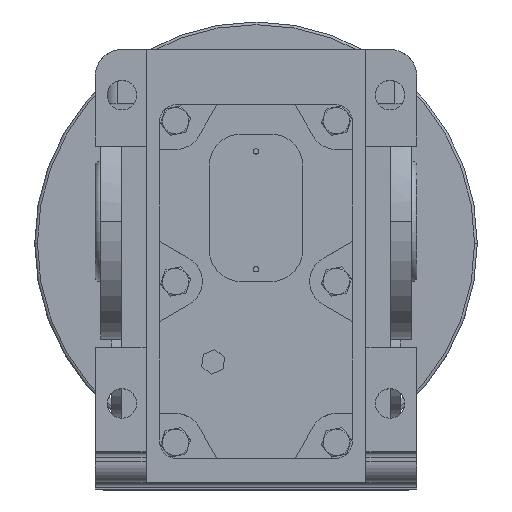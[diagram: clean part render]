
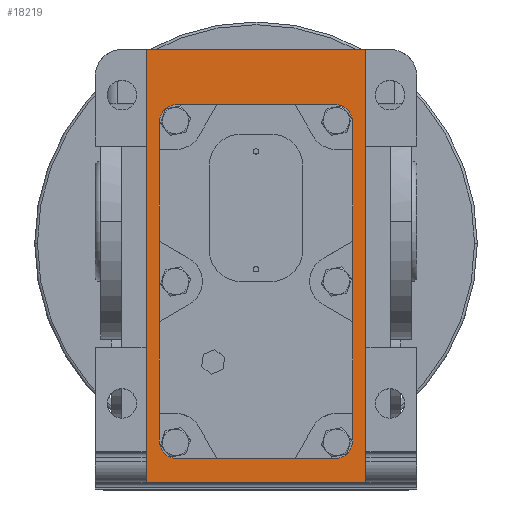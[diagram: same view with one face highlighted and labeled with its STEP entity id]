
A CAD part, top view. The second image highlights one B-rep face of the part: STEP entity #18219.
In plain terms, the highlighted planar face has unit normal (0, 0, 1).
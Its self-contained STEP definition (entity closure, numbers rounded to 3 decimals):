
#1895 = EDGE_CURVE ( 'NONE', #10723, #28179, #4187, .T. ) ;
#1904 = EDGE_CURVE ( 'NONE', #28420, #10725, #4194, .T. ) ;
#1945 = EDGE_CURVE ( 'NONE', #28426, #10721, #4230, .T. ) ;
#1957 = EDGE_CURVE ( 'NONE', #10721, #28420, #4239, .T. ) ;
#1961 = EDGE_CURVE ( 'NONE', #10725, #28487, #4245, .T. ) ;
#1965 = EDGE_CURVE ( 'NONE', #10727, #10723, #4248, .T. ) ;
#1967 = EDGE_CURVE ( 'NONE', #28179, #28426, #4250, .T. ) ;
#2360 = EDGE_CURVE ( 'NONE', #11447, #10890, #4558, .T. ) ;
#2425 = EDGE_CURVE ( 'NONE', #28065, #11447, #4605, .T. ) ;
#2442 = EDGE_CURVE ( 'NONE', #28487, #10727, #4615, .T. ) ;
#2448 = EDGE_CURVE ( 'NONE', #10890, #11078, #4623, .T. ) ;
#2451 = EDGE_CURVE ( 'NONE', #11078, #28065, #4625, .T. ) ;
#2717 = CARTESIAN_POINT ( 'NONE',  ( 16.431, 61.767, 89. ) ) ;
#2719 = DIRECTION ( 'NONE',  ( 0., 0., -1. ) ) ;
#2721 = DIRECTION ( 'NONE',  ( -1., 0., 0. ) ) ;
#2738 = CARTESIAN_POINT ( 'NONE',  ( -42.573, -57.233, 89. ) ) ;
#2740 = DIRECTION ( 'NONE',  ( 0., 0., -1. ) ) ;
#2742 = DIRECTION ( 'NONE',  ( -1., 0., 0. ) ) ;
#2812 = CARTESIAN_POINT ( 'NONE',  ( 16.427, -57.233, 89. ) ) ;
#2813 = DIRECTION ( 'NONE',  ( 0., 0., -1. ) ) ;
#2814 = DIRECTION ( 'NONE',  ( -1., 0., 0. ) ) ;
#2817 = CARTESIAN_POINT ( 'NONE',  ( -130.166, -63.733, 89. ) ) ;
#2820 = DIRECTION ( 'NONE',  ( 0., 1., 0. ) ) ;
#2823 = CARTESIAN_POINT ( 'NONE',  ( -49.073, 2.267, 89. ) ) ;
#2824 = DIRECTION ( 'NONE',  ( -1., 0., 0. ) ) ;
#2832 = CARTESIAN_POINT ( 'NONE',  ( -130.166, 68.267, 89. ) ) ;
#2833 = DIRECTION ( 'NONE',  ( 1., 0., 0. ) ) ;
#2834 = CARTESIAN_POINT ( 'NONE',  ( 22.927, 2.267, 89. ) ) ;
#2835 = DIRECTION ( 'NONE',  ( 0., -1., 0. ) ) ;
#4187 = CIRCLE ( 'NONE', #9866, 6.5 ) ;
#4194 = CIRCLE ( 'NONE', #9867, 6.5 ) ;
#4230 = CIRCLE ( 'NONE', #9873, 6.5 ) ;
#4239 = LINE ( 'NONE', #2817, #4244 ) ;
#4244 = VECTOR ( 'NONE', #2824, 1000. ) ;
#4245 = LINE ( 'NONE', #2823, #4247 ) ;
#4247 = VECTOR ( 'NONE', #2820, 1000. ) ;
#4248 = LINE ( 'NONE', #2832, #4251 ) ;
#4250 = LINE ( 'NONE', #2834, #4253 ) ;
#4251 = VECTOR ( 'NONE', #2833, 1000. ) ;
#4253 = VECTOR ( 'NONE', #2835, 1000. ) ;
#4558 = LINE ( 'NONE', #14966, #4561 ) ;
#4561 = VECTOR ( 'NONE', #14968, 1000. ) ;
#4605 = LINE ( 'NONE', #15036, #4608 ) ;
#4608 = VECTOR ( 'NONE', #15037, 1000. ) ;
#4615 = CIRCLE ( 'NONE', #9924, 6.5 ) ;
#4623 = LINE ( 'NONE', #15059, #4626 ) ;
#4625 = LINE ( 'NONE', #15061, #4628 ) ;
#4626 = VECTOR ( 'NONE', #15060, 1000. ) ;
#4628 = VECTOR ( 'NONE', #15062, 1000. ) ;
#6191 = ORIENTED_EDGE ( 'NONE', *, *, #2451, .T. ) ;
#6192 = ORIENTED_EDGE ( 'NONE', *, *, #2425, .T. ) ;
#6193 = ORIENTED_EDGE ( 'NONE', *, *, #2360, .T. ) ;
#6194 = ORIENTED_EDGE ( 'NONE', *, *, #2448, .T. ) ;
#6195 = ORIENTED_EDGE ( 'NONE', *, *, #1957, .T. ) ;
#6196 = ORIENTED_EDGE ( 'NONE', *, *, #1904, .T. ) ;
#6197 = ORIENTED_EDGE ( 'NONE', *, *, #1961, .T. ) ;
#6198 = ORIENTED_EDGE ( 'NONE', *, *, #2442, .T. ) ;
#6199 = ORIENTED_EDGE ( 'NONE', *, *, #1965, .T. ) ;
#6200 = ORIENTED_EDGE ( 'NONE', *, *, #1895, .T. ) ;
#6201 = ORIENTED_EDGE ( 'NONE', *, *, #1967, .T. ) ;
#6202 = ORIENTED_EDGE ( 'NONE', *, *, #1945, .T. ) ;
#7663 = AXIS2_PLACEMENT_3D ( 'NONE', #29422, #29428, #29429 ) ;
#7885 = EDGE_LOOP ( 'NONE', ( #6191, #6192, #6193, #6194 ) ) ;
#7892 = EDGE_LOOP ( 'NONE', ( #6195, #6196, #6197, #6198, #6199, #6200, #6201, #6202 ) ) ;
#9866 = AXIS2_PLACEMENT_3D ( 'NONE', #2717, #2719, #2721 ) ;
#9867 = AXIS2_PLACEMENT_3D ( 'NONE', #2738, #2740, #2742 ) ;
#9873 = AXIS2_PLACEMENT_3D ( 'NONE', #2812, #2813, #2814 ) ;
#9924 = AXIS2_PLACEMENT_3D ( 'NONE', #15054, #15055, #15056 ) ;
#10721 = VERTEX_POINT ( 'NONE', #24001 ) ;
#10723 = VERTEX_POINT ( 'NONE', #24004 ) ;
#10725 = VERTEX_POINT ( 'NONE', #24009 ) ;
#10727 = VERTEX_POINT ( 'NONE', #24010 ) ;
#10890 = VERTEX_POINT ( 'NONE', #24144 ) ;
#11078 = VERTEX_POINT ( 'NONE', #24301 ) ;
#11447 = VERTEX_POINT ( 'NONE', #20079 ) ;
#14607 = FACE_OUTER_BOUND ( 'NONE', #7885, .T. ) ;
#14621 = FACE_BOUND ( 'NONE', #7892, .T. ) ;
#14966 = CARTESIAN_POINT ( 'NONE',  ( 27.927, 88.767, 89. ) ) ;
#14968 = DIRECTION ( 'NONE',  ( -1., 0., 0. ) ) ;
#15036 = CARTESIAN_POINT ( 'NONE',  ( 27.927, -72.733, 89. ) ) ;
#15037 = DIRECTION ( 'NONE',  ( 0., 1., 0. ) ) ;
#15054 = CARTESIAN_POINT ( 'NONE',  ( -42.576, 61.767, 89. ) ) ;
#15055 = DIRECTION ( 'NONE',  ( 0., 0., -1. ) ) ;
#15056 = DIRECTION ( 'NONE',  ( -1., 0., 0. ) ) ;
#15059 = CARTESIAN_POINT ( 'NONE',  ( -54.073, 88.767, 89. ) ) ;
#15060 = DIRECTION ( 'NONE',  ( 0., -1., 0. ) ) ;
#15061 = CARTESIAN_POINT ( 'NONE',  ( -54.073, -72.733, 89. ) ) ;
#15062 = DIRECTION ( 'NONE',  ( 1., 0., 0. ) ) ;
#18219 = ADVANCED_FACE ( 'NONE', ( #14607, #14621 ), #29423, .T. ) ;
#20079 = CARTESIAN_POINT ( 'NONE',  ( 27.927, 88.767, 89. ) ) ;
#24001 = CARTESIAN_POINT ( 'NONE',  ( 16.427, -63.733, 89. ) ) ;
#24004 = CARTESIAN_POINT ( 'NONE',  ( 16.431, 68.267, 89. ) ) ;
#24009 = CARTESIAN_POINT ( 'NONE',  ( -49.073, -57.233, 89. ) ) ;
#24010 = CARTESIAN_POINT ( 'NONE',  ( -42.576, 68.267, 89. ) ) ;
#24144 = CARTESIAN_POINT ( 'NONE',  ( -54.073, 88.767, 89. ) ) ;
#24301 = CARTESIAN_POINT ( 'NONE',  ( -54.073, -72.733, 89. ) ) ;
#28065 = VERTEX_POINT ( 'NONE', #30072 ) ;
#28179 = VERTEX_POINT ( 'NONE', #30092 ) ;
#28420 = VERTEX_POINT ( 'NONE', #30162 ) ;
#28426 = VERTEX_POINT ( 'NONE', #30163 ) ;
#28487 = VERTEX_POINT ( 'NONE', #30176 ) ;
#29422 = CARTESIAN_POINT ( 'NONE',  ( 27.927, -72.733, 89. ) ) ;
#29423 = PLANE ( 'NONE',  #7663 ) ;
#29428 = DIRECTION ( 'NONE',  ( 0., 0., 1. ) ) ;
#29429 = DIRECTION ( 'NONE',  ( 1., 0., 0. ) ) ;
#30072 = CARTESIAN_POINT ( 'NONE',  ( 27.927, -72.733, 89. ) ) ;
#30092 = CARTESIAN_POINT ( 'NONE',  ( 22.927, 61.967, 89. ) ) ;
#30162 = CARTESIAN_POINT ( 'NONE',  ( -42.573, -63.733, 89. ) ) ;
#30163 = CARTESIAN_POINT ( 'NONE',  ( 22.927, -57.233, 89. ) ) ;
#30176 = CARTESIAN_POINT ( 'NONE',  ( -49.073, 61.967, 89. ) ) ;
